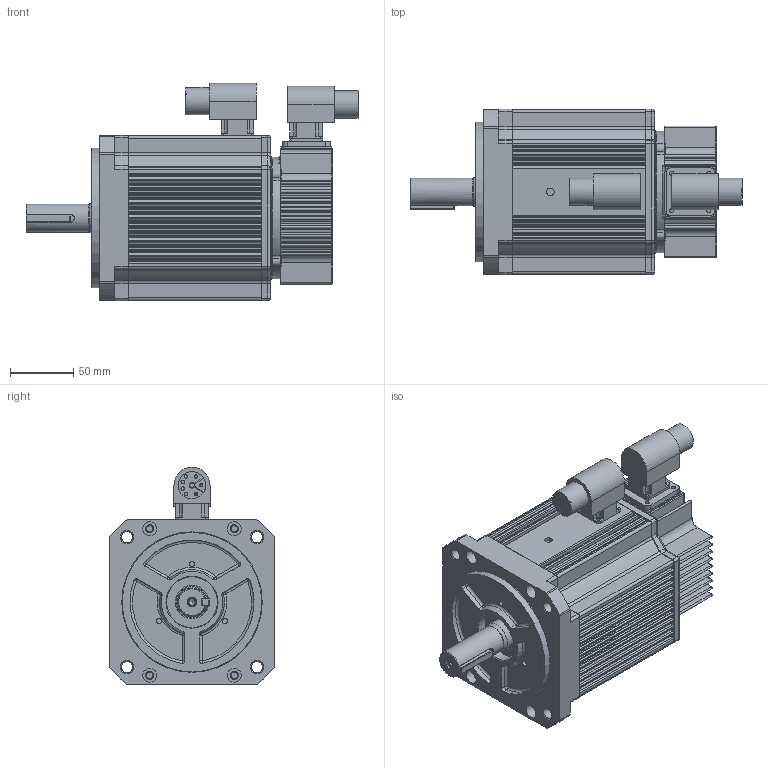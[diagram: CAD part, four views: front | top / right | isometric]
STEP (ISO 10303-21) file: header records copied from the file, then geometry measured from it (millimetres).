
FILE_DESCRIPTION( ( 'Unknown' ), '1' );
FILE_NAME( 'C:/Documents and Settings/leon/桌面/工作資料/3D型錄相關/3D組立圖(給子勤)/stp/DTSB13152B3NGAD0K & DTSB13152B-380V機種 & DTSB13202C3NGAD0K.stp', 'Unknown', ( 'Unknown' ), ( 'Unknown' ), 'PSStep 14.0', 'Unknown', ' ' );
FILE_SCHEMA( ( 'AUTOMOTIVE_DESIGN { 1 0 10303 214 1 1 1 1 }' ) );
Length unit declared in the file: millimetre
Products named in the file (14): 0S180JSB7BA0P-00; 0S331JSA0BP01-00; Assem1; 軍規(電源); 軍規(譯碼器); 1KW\X2\4EE54E0A752853F05EA\X0\; \X2\8ECD898F96326C34588A724\X0\; \X2\51F8625867B\X0\; \X2\625867B\X0\; \X2\4FDD84C\X0\; \X2\50C5524D7AEF542B937569FD8EF\X0\; \X2\937\X0\; \X2\4FDD84CB96326C34588\X0\
Assembly tree (13 placements, depth 3):
  Assem1
    軍規(電源)
    軍規(譯碼器)
    1KW\X2\4EE54E0A752853F05EA\X0\
    \X2\8ECD898F96326C34588A724\X0\
    \X2\51F8625867B\X0\
    \X2\51F8625867B\X0\
    \X2\625867B\X0\
    \X2\4FDD84C\X0\
    \X2\50C5524D7AEF542B937569FD8EF\X0\
    \X2\937\X0\
    \X2\4FDD84CB96326C34588\X0\
    0S180JSB7BA0P-00
      0S331JSA0BP01-00
Bounding box: 261.9 x 130.4 x 171.6 mm (x, y, z)
Volume: 2695160.8 mm3; surface area: 324655.5 mm2
Topology: 12 solids, 15 shells, 1405 faces, 3567 edges, 2242 vertices
Faces by surface type: cylinder 644, plane 510, torus 157, cone 59, sphere 28, bspline 7
Full cylindrical faces by diameter (mm): 1.5 x17, 1.926 x2, 1.985 x1, 2.013 x4, 2.459 x4, 2.5 x4, 2.585 x2, 2.611 x2, 2.621 x4, 2.637 x1, 2.7 x8, 2.834 x2, 3 x4, 3.25 x4, 3.5 x4, 3.746 x1, 4 x3, 5 x9, 6 x1, 6.2 x1, 6.5 x8, 9 x4, 11 x4, 20 x2, 21.5 x2, 22 x1, 24 x1, 24.9 x1, 40 x1, 52 x1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
Entity records: 53266 total; most frequent: CARTESIAN_POINT 7771, DIRECTION 7655, ORIENTED_EDGE 6676, EDGE_CURVE 3338, AXIS2_PLACEMENT_3D 3012, VERTEX_POINT 2183, EDGE_LOOP 1686, LINE 1631
